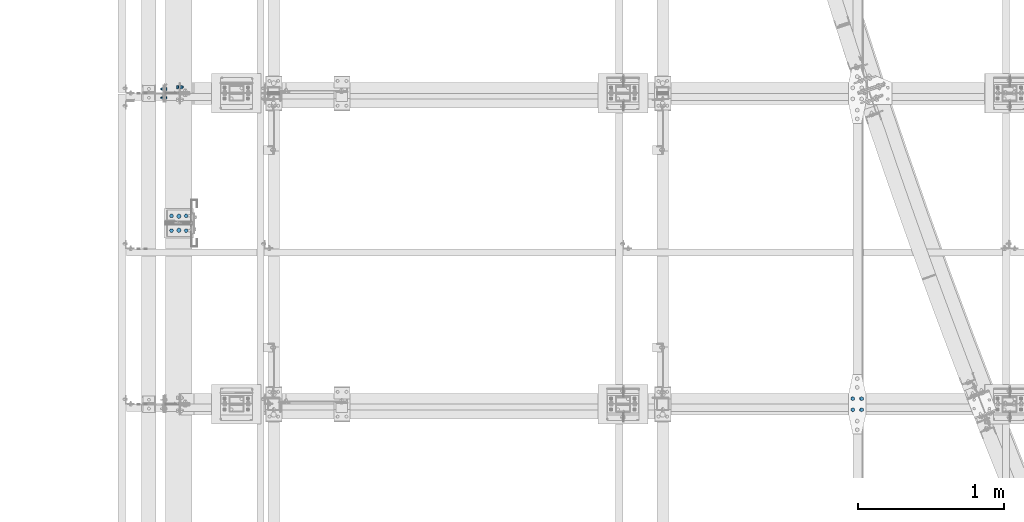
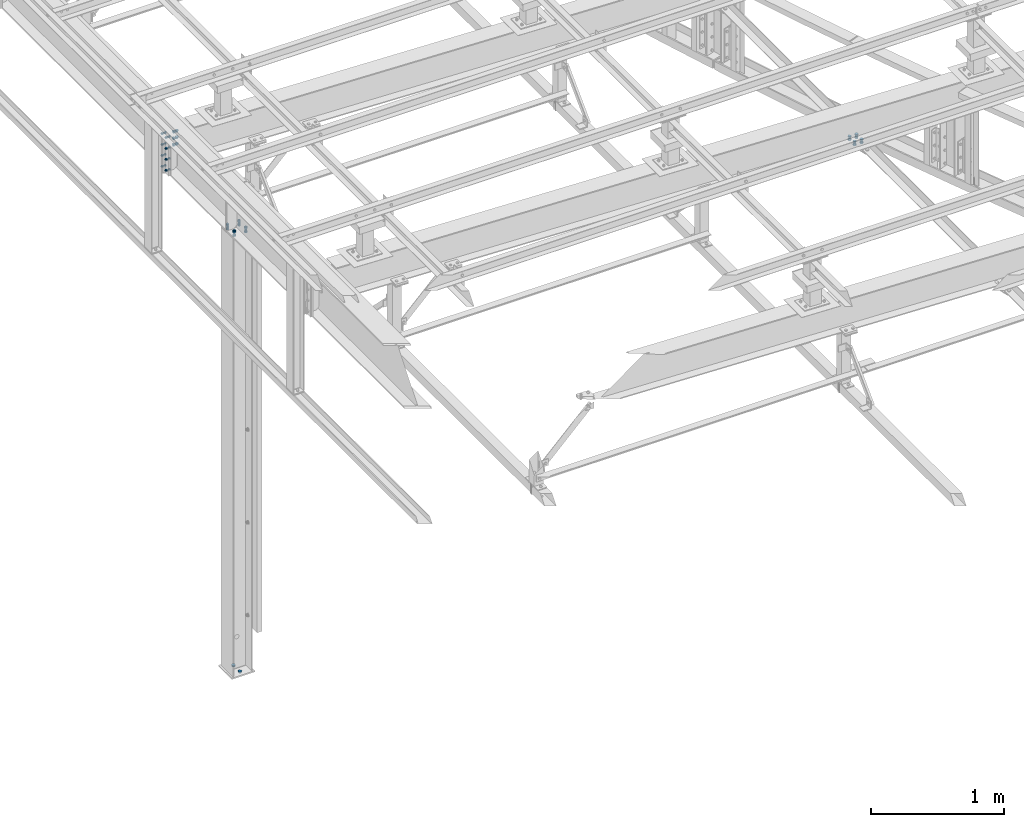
# One storey, part 44 of 3134: 6 mechanical fasteners, 4 elements without a shape of their own.
"""IFC2X3 building model written with IfcOpenShell, lengths in millimetres."""

from ifc_helpers import new_model, si_unit, frame, origin_with_axes, place, context, subcontext, project, spatial, faceted_brep, source, transform, mapped, material, type_object, element, aggregate, save


model = new_model("IFC2X3")

# Units and contexts
model_context = context("Model", 3, precision=1e-05, world=origin_with_axes())
body_context = subcontext(model_context, "Body", "Model", "MODEL_VIEW")
ifc_project = project(units=[si_unit("LENGTHUNIT", "METRE", prefix="MILLI"), si_unit("AREAUNIT", "SQUARE_METRE"), si_unit("VOLUMEUNIT", "CUBIC_METRE"), si_unit("MASSUNIT", "GRAM", prefix="KILO"), si_unit("TIMEUNIT", "SECOND"), si_unit("PLANEANGLEUNIT", "RADIAN"), si_unit("SOLIDANGLEUNIT", "STERADIAN"), si_unit("THERMODYNAMICTEMPERATUREUNIT", "DEGREE_CELSIUS"), si_unit("LUMINOUSINTENSITYUNIT", "LUMEN")], contexts=[model_context])

# Site, building, storey
site_placement = place(None, origin_with_axes())
site = spatial("IfcSite", under=ifc_project, at=site_placement, CompositionType="ELEMENT")
building_placement = place(site_placement, origin_with_axes())
building = spatial("IfcBuilding", under=site, at=building_placement, Name="Undefined", CompositionType="ELEMENT")
storey_placement = place(building_placement, origin_with_axes())
storey = spatial("IfcBuildingStorey", under=building, at=storey_placement, Name="Undefined", CompositionType="ELEMENT", Elevation=0.0)

# Assembly, mechanical fastener
assembly_1_placement = place(storey_placement, origin_with_axes())
assembly_1 = element("IfcElementAssembly", 1, at=assembly_1_placement, inside=storey, Name="HEA180", AssemblyPlace="NOTDEFINED", PredefinedType="RIGID_FRAME")
ifc_material = material(Name="8.8")
mechanical_fastener_type = type_object("IfcMechanicalFastenerType", Name="Bolt assembly")
shared_shape_1 = source(origin_with_axes(), body_context, "Body", "Brep", [
    faceted_brep([(13.0, 0.0, 0.0), (11.2583302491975, 0.0, 6.50000000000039), (6.49999999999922, 0.0, 11.2583302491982), (-1.34723677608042e-12, 0.0, 13.0), (-6.50000000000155, 0.0, 11.2583302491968), (-11.2583302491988, 0.0, 6.49999999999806), (-13.0, 0.0, -2.69447355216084e-12), (-11.2583302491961, 0.0, -6.50000000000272), (-6.4999999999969, 0.0, -11.2583302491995), (4.02727742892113e-12, 0.0, -13.0), (6.50000000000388, 0.0, -11.2583302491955), (11.2583302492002, 0.0, -6.49999999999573), (11.2583302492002, 12.1, -6.49999999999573), (6.50000000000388, 12.1, -11.2583302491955), (4.02727742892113e-12, 12.1, -13.0), (-6.4999999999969, 12.1, -11.2583302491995), (-11.2583302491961, 12.1, -6.50000000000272), (-13.0, 12.1, -2.69447355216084e-12), (-11.2583302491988, 12.1, 6.49999999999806), (-6.50000000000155, 12.1, 11.2583302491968), (-1.34723677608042e-12, 12.1, 13.0), (6.49999999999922, 12.1, 11.2583302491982), (11.2583302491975, 12.1, 6.50000000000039), (13.0, 12.1, 0.0)], [[[0, 1, 2, 3, 4, 5, 6, 7, 8, 9, 10, 11]], [[12, 13, 14, 15, 16, 17, 18, 19, 20, 21, 22, 23]], [[0, 23, 22, 1]], [[1, 22, 21, 2]], [[2, 21, 20, 3]], [[3, 20, 19, 4]], [[4, 19, 18, 5]], [[5, 18, 17, 6]], [[6, 17, 16, 7]], [[7, 16, 15, 8]], [[8, 15, 14, 9]], [[9, 14, 13, 10]], [[10, 13, 12, 11]], [[11, 12, 23, 0]]]),
])
mechanical_fastener_1_placement = place(assembly_1_placement, frame((0.0, 18560.0, -400.0), z_axis=(0.0, 1.0, 0.0), x_axis=(-1.0, 0.0, 0.0)))
mechanical_fastener_1 = element("IfcMechanicalFastener", 2, at=mechanical_fastener_1_placement, type_object=mechanical_fastener_type, material=ifc_material, Name="Bolt assembly", NominalDiameter=24.0, NominalLength=12.0, context=body_context, shape_type="MappedRepresentation", body=[
    mapped(shared_shape_1, transform((0.0, 0.0, -48.0))),
    mapped(shared_shape_1, transform((0.0, 0.0, 48.0))),
])

assembly_2_placement = place(storey_placement, origin_with_axes())
assembly_2 = element("IfcElementAssembly", 3, at=assembly_2_placement, inside=storey, Name="IPE400", AssemblyPlace="NOTDEFINED", PredefinedType="RIGID_FRAME")
shared_shape_2 = source(origin_with_axes(), body_context, "Body", "Brep", [
    faceted_brep([(10.9696551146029, -18.0, 0.0), (5.48482755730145, -18.0, 9.5), (-5.48482755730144, -18.0, 9.5), (-10.9696551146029, -18.0, 1.34339530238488e-15), (-5.48482755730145, -18.0, -9.5), (5.48482755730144, -18.0, -9.50000000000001), (5.48482755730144, -10.0, -9.50000000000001), (-5.48482755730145, -10.0, -9.5), (-10.9696551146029, -10.0, 1.34339530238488e-15), (-5.48482755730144, -10.0, 9.5), (5.48482755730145, -10.0, 9.5), (10.9696551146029, -10.0, 0.0), (6.0, -10.0, 0.0), (5.19615242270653, -10.0, 3.00000000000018), (2.99999999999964, -10.0, 5.19615242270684), (-6.21801588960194e-13, -10.0, 6.0), (-3.00000000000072, -10.0, 5.19615242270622), (-5.19615242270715, -10.0, 2.9999999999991), (-6.0, -10.0, -1.24360317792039e-12), (-5.19615242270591, -10.0, -3.00000000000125), (-2.99999999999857, -10.0, -5.19615242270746), (1.85874342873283e-12, -10.0, -6.0), (3.00000000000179, -10.0, -5.1961524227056), (5.19615242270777, -10.0, -2.99999999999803), (5.19615242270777, 24.9999999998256, -2.99999999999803), (3.00000000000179, 24.9999999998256, -5.1961524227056), (1.85874342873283e-12, 24.9999999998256, -6.0), (-2.99999999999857, 24.9999999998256, -5.19615242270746), (-5.19615242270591, 24.9999999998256, -3.00000000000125), (-6.0, 24.9999999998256, -1.24360317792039e-12), (-5.19615242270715, 24.9999999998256, 2.9999999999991), (-3.00000000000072, 24.9999999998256, 5.19615242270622), (-6.21801588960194e-13, 24.9999999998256, 6.0), (2.99999999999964, 24.9999999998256, 5.19615242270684), (5.19615242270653, 24.9999999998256, 3.00000000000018), (6.0, 24.9999999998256, 0.0), (10.9696551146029, 10.0, 0.0), (5.48482755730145, 10.0, 9.5), (-5.48482755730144, 10.0, 9.5), (-10.9696551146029, 10.0, 1.34339530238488e-15), (-5.48482755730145, 10.0, -9.5), (5.48482755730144, 10.0, -9.50000000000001), (5.48482755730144, 20.0, -9.50000000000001), (-5.48482755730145, 20.0, -9.5), (-10.9696551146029, 20.0, 1.34339530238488e-15), (-5.48482755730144, 20.0, 9.5), (5.48482755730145, 20.0, 9.5), (10.9696551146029, 20.0, 0.0)], [[[0, 1, 2, 3, 4, 5]], [[6, 7, 8, 9, 10, 11]], [[0, 11, 10, 1]], [[1, 10, 9, 2]], [[2, 9, 8, 3]], [[3, 8, 7, 4]], [[4, 7, 6, 5]], [[5, 6, 11, 0]], [[12, 13, 14, 15, 16, 17, 18, 19, 20, 21, 22, 23]], [[24, 25, 26, 27, 28, 29, 30, 31, 32, 33, 34, 35]], [[12, 35, 34, 13]], [[13, 34, 33, 14]], [[14, 33, 32, 15]], [[15, 32, 31, 16]], [[16, 31, 30, 17]], [[17, 30, 29, 18]], [[18, 29, 28, 19]], [[19, 28, 27, 20]], [[20, 27, 26, 21]], [[21, 26, 25, 22]], [[22, 25, 24, 23]], [[23, 24, 35, 12]], [[36, 37, 38, 39, 40, 41]], [[42, 43, 44, 45, 46, 47]], [[36, 47, 46, 37]], [[37, 46, 45, 38]], [[38, 45, 44, 39]], [[39, 44, 43, 40]], [[40, 43, 42, 41]], [[41, 42, 47, 36]]]),
    faceted_brep([(7.0, -0.1, 0.0), (6.06217782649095, -0.1, 3.50000000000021), (3.49999999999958, -0.1, 6.06217782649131), (-7.25435187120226e-13, -0.1, 7.0), (-3.50000000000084, -0.1, 6.06217782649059), (-6.06217782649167, -0.1, 3.49999999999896), (-7.0, -0.1, -1.45087037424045e-12), (-6.06217782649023, -0.1, -3.50000000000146), (-3.49999999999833, -0.1, -6.06217782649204), (2.1685340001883e-12, -0.1, -7.0), (3.50000000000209, -0.1, -6.06217782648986), (6.0621778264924, -0.1, -3.4999999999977), (6.0621778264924, 10.0, -3.4999999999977), (3.50000000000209, 10.0, -6.06217782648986), (2.1685340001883e-12, 10.0, -7.0), (-3.49999999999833, 10.0, -6.06217782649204), (-6.06217782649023, 10.0, -3.50000000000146), (-7.0, 10.0, -1.45087037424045e-12), (-6.06217782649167, 10.0, 3.49999999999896), (-3.50000000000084, 10.0, 6.06217782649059), (-7.25435187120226e-13, 10.0, 7.0), (3.49999999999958, 10.0, 6.06217782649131), (6.06217782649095, 10.0, 3.50000000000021), (7.0, 10.0, 0.0), (7.0, -9.89999913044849, 0.0), (6.06217782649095, -9.89999913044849, 3.50000000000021), (3.49999999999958, -9.89999913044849, 6.06217782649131), (-7.25435187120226e-13, -9.89999913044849, 7.0), (-3.50000000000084, -9.89999913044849, 6.06217782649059), (-6.06217782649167, -9.89999913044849, 3.49999999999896), (-7.0, -9.89999913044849, -1.45087037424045e-12), (-6.06217782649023, -9.89999913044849, -3.50000000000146), (-3.49999999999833, -9.89999913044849, -6.06217782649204), (2.1685340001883e-12, -9.89999913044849, -7.0), (3.50000000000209, -9.89999913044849, -6.06217782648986), (6.0621778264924, -9.89999913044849, -3.4999999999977), (6.0621778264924, 0.0999999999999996, -3.4999999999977), (3.50000000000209, 0.0999999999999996, -6.06217782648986), (2.1685340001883e-12, 0.0999999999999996, -7.0), (-3.49999999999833, 0.0999999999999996, -6.06217782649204), (-6.06217782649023, 0.0999999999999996, -3.50000000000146), (-7.0, 0.0999999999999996, -1.45087037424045e-12), (-6.06217782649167, 0.0999999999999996, 3.49999999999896), (-3.50000000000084, 0.0999999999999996, 6.06217782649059), (-7.25435187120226e-13, 0.0999999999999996, 7.0), (3.49999999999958, 0.0999999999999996, 6.06217782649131), (6.06217782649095, 0.0999999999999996, 3.50000000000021), (7.0, 0.0999999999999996, 0.0)], [[[0, 1, 2, 3, 4, 5, 6, 7, 8, 9, 10, 11]], [[12, 13, 14, 15, 16, 17, 18, 19, 20, 21, 22, 23]], [[0, 23, 22, 1]], [[1, 22, 21, 2]], [[2, 21, 20, 3]], [[3, 20, 19, 4]], [[4, 19, 18, 5]], [[5, 18, 17, 6]], [[6, 17, 16, 7]], [[7, 16, 15, 8]], [[8, 15, 14, 9]], [[9, 14, 13, 10]], [[10, 13, 12, 11]], [[11, 12, 23, 0]], [[24, 25, 26, 27, 28, 29, 30, 31, 32, 33, 34, 35]], [[36, 37, 38, 39, 40, 41, 42, 43, 44, 45, 46, 47]], [[24, 47, 46, 25]], [[25, 46, 45, 26]], [[26, 45, 44, 27]], [[27, 44, 43, 28]], [[28, 43, 42, 29]], [[29, 42, 41, 30]], [[30, 41, 40, 31]], [[31, 40, 39, 32]], [[32, 39, 38, 33]], [[33, 38, 37, 34]], [[34, 37, 36, 35]], [[35, 36, 47, 24]]]),
])
mechanical_fastener_2_placement = place(assembly_2_placement, frame((-100.0, 19450.0, 3990.0), z_axis=(0.0, 1.0, 0.0), x_axis=(0.0, 0.0, -1.0)))
mechanical_fastener_2 = element("IfcMechanicalFastener", 4, at=mechanical_fastener_2_placement, type_object=mechanical_fastener_type, material=ifc_material, Name="Bolt assembly", NominalDiameter=12.0, NominalLength=35.0, context=body_context, shape_type="MappedRepresentation", body=[
    mapped(shared_shape_2, transform((0.0, 4.54747350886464e-13, -30.0000000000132))),
    mapped(shared_shape_2, transform((100.0, 0.0, -30.0))),
    mapped(shared_shape_2, transform((200.0, 0.0, -30.0))),
    mapped(shared_shape_2, transform((300.0, 0.0, -30.0))),
    mapped(shared_shape_2, transform((0.0, 4.54747350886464e-13, 30.0000000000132))),
    mapped(shared_shape_2, transform((100.0, 0.0, 30.0))),
    mapped(shared_shape_2, transform((200.0, 0.0, 30.0))),
    mapped(shared_shape_2, transform((300.0, 0.0, 30.0))),
])
aggregate(assembly_2, [mechanical_fastener_2])

# Mechanical fastener
shared_shape_3 = source(origin_with_axes(), body_context, "Body", "Brep", [
    faceted_brep([(13.856406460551, -10.0, 0.0), (6.92820323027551, -10.0, 12.0), (-6.92820323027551, -10.0, 12.0), (-13.856406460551, -10.0, 1.69692038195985e-15), (-6.92820323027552, -10.0, -12.0), (6.9282032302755, -10.0, -12.0), (6.9282032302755, 0.0, -12.0), (-6.92820323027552, 0.0, -12.0), (-13.856406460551, 0.0, 1.69692038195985e-15), (-6.92820323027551, 0.0, 12.0), (6.92820323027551, 0.0, 12.0), (13.856406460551, 0.0, 0.0), (8.0, 0.0, 0.0), (6.92820323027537, 0.0, 4.00000000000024), (3.99999999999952, 0.0, 6.92820323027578), (-8.29068785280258e-13, 0.0, 8.0), (-4.00000000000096, 0.0, 6.92820323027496), (-6.9282032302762, 0.0, 3.99999999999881), (-8.0, 0.0, -1.65813757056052e-12), (-6.92820323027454, 0.0, -4.00000000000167), (-3.99999999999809, 0.0, -6.92820323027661), (2.47832457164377e-12, 0.0, -8.0), (4.00000000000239, 0.0, -6.92820323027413), (6.92820323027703, 0.0, -3.99999999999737), (6.92820323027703, 45.0, -3.99999999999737), (4.00000000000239, 45.0, -6.92820323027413), (2.47832457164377e-12, 45.0, -8.0), (-3.99999999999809, 45.0, -6.92820323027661), (-6.92820323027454, 45.0, -4.00000000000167), (-8.0, 45.0, -1.65813757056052e-12), (-6.9282032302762, 45.0, 3.99999999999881), (-4.00000000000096, 45.0, 6.92820323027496), (-8.29068785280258e-13, 45.0, 8.0), (3.99999999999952, 45.0, 6.92820323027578), (6.92820323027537, 45.0, 4.00000000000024), (8.0, 45.0, 0.0), (13.856406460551, 25.5, 0.0), (6.92820323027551, 25.5, 12.0), (-6.92820323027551, 25.5, 12.0), (-13.856406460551, 25.5, 1.69692038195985e-15), (-6.92820323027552, 25.5, -12.0), (6.9282032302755, 25.5, -12.0), (6.9282032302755, 38.5, -12.0), (-6.92820323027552, 38.5, -12.0), (-13.856406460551, 38.5, 1.69692038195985e-15), (-6.92820323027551, 38.5, 12.0), (6.92820323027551, 38.5, 12.0), (13.856406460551, 38.5, 0.0)], [[[0, 1, 2, 3, 4, 5]], [[6, 7, 8, 9, 10, 11]], [[0, 11, 10, 1]], [[1, 10, 9, 2]], [[2, 9, 8, 3]], [[3, 8, 7, 4]], [[4, 7, 6, 5]], [[5, 6, 11, 0]], [[12, 13, 14, 15, 16, 17, 18, 19, 20, 21, 22, 23]], [[24, 25, 26, 27, 28, 29, 30, 31, 32, 33, 34, 35]], [[12, 35, 34, 13]], [[13, 34, 33, 14]], [[14, 33, 32, 15]], [[15, 32, 31, 16]], [[16, 31, 30, 17]], [[17, 30, 29, 18]], [[18, 29, 28, 19]], [[19, 28, 27, 20]], [[20, 27, 26, 21]], [[21, 26, 25, 22]], [[22, 25, 24, 23]], [[23, 24, 35, 12]], [[36, 37, 38, 39, 40, 41]], [[42, 43, 44, 45, 46, 47]], [[36, 47, 46, 37]], [[37, 46, 45, 38]], [[38, 45, 44, 39]], [[39, 44, 43, 40]], [[40, 43, 42, 41]], [[41, 42, 47, 36]]]),
    faceted_brep([(9.0, 11.9, 0.0), (7.79422863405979, 11.9, 4.50000000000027), (4.49999999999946, 11.9, 7.79422863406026), (-9.3270238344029e-13, 11.9, 9.0), (-4.50000000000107, 11.9, 7.79422863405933), (-7.79422863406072, 11.9, 4.49999999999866), (-9.0, 11.9, -1.86540476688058e-12), (-7.79422863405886, 11.9, -4.50000000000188), (-4.49999999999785, 11.9, -7.79422863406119), (2.78811514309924e-12, 11.9, -9.0), (4.50000000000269, 11.9, -7.7942286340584), (7.79422863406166, 11.9, -4.49999999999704), (7.79422863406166, 25.5, -4.49999999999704), (4.50000000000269, 25.5, -7.7942286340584), (2.78811514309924e-12, 25.5, -9.0), (-4.49999999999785, 25.5, -7.79422863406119), (-7.79422863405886, 25.5, -4.50000000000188), (-9.0, 25.5, -1.86540476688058e-12), (-7.79422863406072, 25.5, 4.49999999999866), (-4.50000000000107, 25.5, 7.79422863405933), (-9.3270238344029e-13, 25.5, 9.0), (4.49999999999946, 25.5, 7.79422863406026), (7.79422863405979, 25.5, 4.50000000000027), (9.0, 25.5, 0.0), (9.0, 0.100000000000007, 0.0), (7.79422863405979, 0.100000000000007, 4.50000000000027), (4.49999999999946, 0.100000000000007, 7.79422863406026), (-9.3270238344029e-13, 0.100000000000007, 9.0), (-4.50000000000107, 0.100000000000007, 7.79422863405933), (-7.79422863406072, 0.100000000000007, 4.49999999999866), (-9.0, 0.100000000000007, -1.86540476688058e-12), (-7.79422863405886, 0.100000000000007, -4.50000000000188), (-4.49999999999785, 0.100000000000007, -7.79422863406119), (2.78811514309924e-12, 0.100000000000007, -9.0), (4.50000000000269, 0.100000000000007, -7.7942286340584), (7.79422863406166, 0.100000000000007, -4.49999999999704), (7.79422863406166, 12.1, -4.49999999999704), (4.50000000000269, 12.1, -7.7942286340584), (2.78811514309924e-12, 12.1, -9.0), (-4.49999999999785, 12.1, -7.79422863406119), (-7.79422863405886, 12.1, -4.50000000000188), (-9.0, 12.1, -1.86540476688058e-12), (-7.79422863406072, 12.1, 4.49999999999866), (-4.50000000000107, 12.1, 7.79422863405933), (-9.3270238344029e-13, 12.1, 9.0), (4.49999999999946, 12.1, 7.79422863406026), (7.79422863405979, 12.1, 4.50000000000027), (9.0, 12.1, 0.0)], [[[0, 1, 2, 3, 4, 5, 6, 7, 8, 9, 10, 11]], [[12, 13, 14, 15, 16, 17, 18, 19, 20, 21, 22, 23]], [[0, 23, 22, 1]], [[1, 22, 21, 2]], [[2, 21, 20, 3]], [[3, 20, 19, 4]], [[4, 19, 18, 5]], [[5, 18, 17, 6]], [[6, 17, 16, 7]], [[7, 16, 15, 8]], [[8, 15, 14, 9]], [[9, 14, 13, 10]], [[10, 13, 12, 11]], [[11, 12, 23, 0]], [[24, 25, 26, 27, 28, 29, 30, 31, 32, 33, 34, 35]], [[36, 37, 38, 39, 40, 41, 42, 43, 44, 45, 46, 47]], [[24, 47, 46, 25]], [[25, 46, 45, 26]], [[26, 45, 44, 27]], [[27, 44, 43, 28]], [[28, 43, 42, 29]], [[29, 42, 41, 30]], [[30, 41, 40, 31]], [[31, 40, 39, 32]], [[32, 39, 38, 33]], [[33, 38, 37, 34]], [[34, 37, 36, 35]], [[35, 36, 47, 24]]]),
])
mechanical_fastener_3_placement = place(assembly_1_placement, frame((50.0, 18510.0, 3628.0), z_axis=(0.0, 1.0, 0.0), x_axis=(-1.0, 0.0, 0.0)))
mechanical_fastener_3 = element("IfcMechanicalFastener", 5, at=mechanical_fastener_3_placement, type_object=mechanical_fastener_type, material=ifc_material, Name="Bolt assembly", NominalDiameter=16.0, NominalLength=45.0, context=body_context, shape_type="MappedRepresentation", body=[
    mapped(shared_shape_3, transform((0.0, 0.0, 0.0))),
    mapped(shared_shape_3, transform((100.0, 0.0, 0.0))),
])

mechanical_fastener_4_placement = place(assembly_1_placement, frame((50.0, 18610.0, 3628.0), z_axis=(0.0, 1.0, 0.0), x_axis=(-1.0, 0.0, 0.0)))
mechanical_fastener_4 = element("IfcMechanicalFastener", 6, at=mechanical_fastener_4_placement, type_object=mechanical_fastener_type, material=ifc_material, Name="Bolt assembly", NominalDiameter=16.0, NominalLength=45.0, context=body_context, shape_type="MappedRepresentation", body=[
    mapped(shared_shape_3, transform((0.0, 0.0, 0.0))),
    mapped(shared_shape_3, transform((100.0, 0.0, 0.0))),
])

aggregate(assembly_1, [mechanical_fastener_3, mechanical_fastener_4, mechanical_fastener_1])

# Assembly, mechanical fastener
assembly_3_placement = place(storey_placement, origin_with_axes())
assembly_3 = element("IfcElementAssembly", 7, at=assembly_3_placement, inside=storey, AssemblyPlace="NOTDEFINED", PredefinedType="RIGID_FRAME")
shared_shape_4 = source(origin_with_axes(), body_context, "Body", "Brep", [
    faceted_brep([(13.856406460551, -18.5936482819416, 0.0), (6.92820323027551, -18.5936482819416, 12.0), (-6.92820323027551, -18.5936482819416, 12.0), (-13.856406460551, -18.5936482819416, 1.69692038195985e-15), (-6.92820323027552, -18.5936482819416, -12.0), (6.9282032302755, -18.5936482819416, -12.0), (6.9282032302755, -8.59364828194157, -12.0), (-6.92820323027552, -8.59364828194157, -12.0), (-13.856406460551, -8.59364828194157, 1.69692038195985e-15), (-6.92820323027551, -8.59364828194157, 12.0), (6.92820323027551, -8.59364828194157, 12.0), (13.856406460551, -8.59364828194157, 0.0), (8.0, -8.59364828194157, 0.0), (6.92820323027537, -8.59364828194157, 4.00000000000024), (3.99999999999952, -8.59364828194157, 6.92820323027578), (-8.29068785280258e-13, -8.59364828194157, 8.0), (-4.00000000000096, -8.59364828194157, 6.92820323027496), (-6.9282032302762, -8.59364828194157, 3.99999999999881), (-8.0, -8.59364828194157, -1.65813757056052e-12), (-6.92820323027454, -8.59364828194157, -4.00000000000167), (-3.99999999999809, -8.59364828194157, -6.92820323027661), (2.47832457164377e-12, -8.59364828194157, -8.0), (4.00000000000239, -8.59364828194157, -6.92820323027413), (6.92820323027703, -8.59364828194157, -3.99999999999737), (6.92820323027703, 26.4063517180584, -3.99999999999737), (4.00000000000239, 26.4063517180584, -6.92820323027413), (2.47832457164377e-12, 26.4063517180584, -8.0), (-3.99999999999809, 26.4063517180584, -6.92820323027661), (-6.92820323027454, 26.4063517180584, -4.00000000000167), (-8.0, 26.4063517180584, -1.65813757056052e-12), (-6.9282032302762, 26.4063517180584, 3.99999999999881), (-4.00000000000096, 26.4063517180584, 6.92820323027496), (-8.29068785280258e-13, 26.4063517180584, 8.0), (3.99999999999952, 26.4063517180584, 6.92820323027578), (6.92820323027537, 26.4063517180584, 4.00000000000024), (8.0, 26.4063517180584, 0.0), (13.856406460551, 7.0, 0.0), (6.92820323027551, 7.0, 12.0), (-6.92820323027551, 7.0, 12.0), (-13.856406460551, 7.0, 1.69692038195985e-15), (-6.92820323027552, 7.0, -12.0), (6.9282032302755, 7.0, -12.0), (6.9282032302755, 20.0, -12.0), (-6.92820323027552, 20.0, -12.0), (-13.856406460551, 20.0, 1.69692038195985e-15), (-6.92820323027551, 20.0, 12.0), (6.92820323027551, 20.0, 12.0), (13.856406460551, 20.0, 0.0)], [[[0, 1, 2, 3, 4, 5]], [[6, 7, 8, 9, 10, 11]], [[0, 11, 10, 1]], [[1, 10, 9, 2]], [[2, 9, 8, 3]], [[3, 8, 7, 4]], [[4, 7, 6, 5]], [[5, 6, 11, 0]], [[12, 13, 14, 15, 16, 17, 18, 19, 20, 21, 22, 23]], [[24, 25, 26, 27, 28, 29, 30, 31, 32, 33, 34, 35]], [[12, 35, 34, 13]], [[13, 34, 33, 14]], [[14, 33, 32, 15]], [[15, 32, 31, 16]], [[16, 31, 30, 17]], [[17, 30, 29, 18]], [[18, 29, 28, 19]], [[19, 28, 27, 20]], [[20, 27, 26, 21]], [[21, 26, 25, 22]], [[22, 25, 24, 23]], [[23, 24, 35, 12]], [[36, 37, 38, 39, 40, 41]], [[42, 43, 44, 45, 46, 47]], [[36, 47, 46, 37]], [[37, 46, 45, 38]], [[38, 45, 44, 39]], [[39, 44, 43, 40]], [[40, 43, 42, 41]], [[41, 42, 47, 36]]]),
    faceted_brep([(9.0, -8.49364828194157, 0.0), (7.79422863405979, -8.49364828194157, 4.50000000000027), (4.49999999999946, -8.49364828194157, 7.79422863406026), (-9.3270238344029e-13, -8.49364828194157, 9.0), (-4.50000000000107, -8.49364828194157, 7.79422863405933), (-7.79422863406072, -8.49364828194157, 4.49999999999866), (-9.0, -8.49364828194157, -1.86540476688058e-12), (-7.79422863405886, -8.49364828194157, -4.50000000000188), (-4.49999999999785, -8.49364828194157, -7.79422863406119), (2.78811514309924e-12, -8.49364828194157, -9.0), (4.50000000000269, -8.49364828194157, -7.7942286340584), (7.79422863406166, -8.49364828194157, -4.49999999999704), (7.79422863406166, 0.10635209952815, -4.49999999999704), (4.50000000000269, 0.10635209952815, -7.7942286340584), (2.78811514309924e-12, 0.10635209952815, -9.0), (-4.49999999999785, 0.10635209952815, -7.79422863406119), (-7.79422863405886, 0.10635209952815, -4.50000000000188), (-9.0, 0.10635209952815, -1.86540476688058e-12), (-7.79422863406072, 0.10635209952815, 4.49999999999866), (-4.50000000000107, 0.10635209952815, 7.79422863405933), (-9.3270238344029e-13, 0.10635209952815, 9.0), (4.49999999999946, 0.10635209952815, 7.79422863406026), (7.79422863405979, 0.10635209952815, 4.50000000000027), (9.0, 0.10635209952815, 0.0), (9.0, -0.1, 0.0), (7.79422863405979, -0.1, 4.50000000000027), (4.49999999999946, -0.1, 7.79422863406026), (-9.3270238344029e-13, -0.1, 9.0), (-4.50000000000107, -0.1, 7.79422863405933), (-7.79422863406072, -0.1, 4.49999999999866), (-9.0, -0.1, -1.86540476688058e-12), (-7.79422863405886, -0.1, -4.50000000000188), (-4.49999999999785, -0.1, -7.79422863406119), (2.78811514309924e-12, -0.1, -9.0), (4.50000000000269, -0.1, -7.7942286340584), (7.79422863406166, -0.1, -4.49999999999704), (7.79422863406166, 7.0, -4.49999999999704), (4.50000000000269, 7.0, -7.7942286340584), (2.78811514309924e-12, 7.0, -9.0), (-4.49999999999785, 7.0, -7.79422863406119), (-7.79422863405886, 7.0, -4.50000000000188), (-9.0, 7.0, -1.86540476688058e-12), (-7.79422863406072, 7.0, 4.49999999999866), (-4.50000000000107, 7.0, 7.79422863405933), (-9.3270238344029e-13, 7.0, 9.0), (4.49999999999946, 7.0, 7.79422863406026), (7.79422863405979, 7.0, 4.50000000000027), (9.0, 7.0, 0.0)], [[[0, 1, 2, 3, 4, 5, 6, 7, 8, 9, 10, 11]], [[12, 13, 14, 15, 16, 17, 18, 19, 20, 21, 22, 23]], [[0, 23, 22, 1]], [[1, 22, 21, 2]], [[2, 21, 20, 3]], [[3, 20, 19, 4]], [[4, 19, 18, 5]], [[5, 18, 17, 6]], [[6, 17, 16, 7]], [[7, 16, 15, 8]], [[8, 15, 14, 9]], [[9, 14, 13, 10]], [[10, 13, 12, 11]], [[11, 12, 23, 0]], [[24, 25, 26, 27, 28, 29, 30, 31, 32, 33, 34, 35]], [[36, 37, 38, 39, 40, 41, 42, 43, 44, 45, 46, 47]], [[24, 47, 46, 25]], [[25, 46, 45, 26]], [[26, 45, 44, 27]], [[27, 44, 43, 28]], [[28, 43, 42, 29]], [[29, 42, 41, 30]], [[30, 41, 40, 31]], [[31, 40, 39, 32]], [[32, 39, 38, 33]], [[33, 38, 37, 34]], [[34, 37, 36, 35]], [[35, 36, 47, 24]]]),
])
mechanical_fastener_5_placement = place(assembly_3_placement, frame((4.29364809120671, 19493.04, 3841.86727512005), z_axis=(0.0, 1.0, 0.0), x_axis=(0.0, 0.0, 1.0)))
mechanical_fastener_5 = element("IfcMechanicalFastener", 8, at=mechanical_fastener_5_placement, type_object=mechanical_fastener_type, material=ifc_material, Name="Bolt assembly", NominalDiameter=16.0, NominalLength=35.0, context=body_context, shape_type="MappedRepresentation", body=[
    mapped(shared_shape_4, transform((0.0, 0.0, 0.0))),
    mapped(shared_shape_4, transform((59.9999999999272, 0.0, 5.40239852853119e-10))),
    mapped(shared_shape_4, transform((120.0, 0.0, 0.0))),
])
aggregate(assembly_3, [mechanical_fastener_5])

assembly_4_placement = place(storey_placement, origin_with_axes())
assembly_4 = element("IfcElementAssembly", 9, at=assembly_4_placement, inside=storey, Name="PL8", AssemblyPlace="NOTDEFINED", PredefinedType="RIGID_FRAME")
shared_shape_5 = source(origin_with_axes(), body_context, "Body", "Brep", [
    faceted_brep([(13.856406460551, -23.2000817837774, 0.0), (6.92820323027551, -23.2000817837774, 12.0), (-6.92820323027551, -23.2000817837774, 12.0), (-13.856406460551, -23.2000817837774, 1.69692038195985e-15), (-6.92820323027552, -23.2000817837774, -12.0), (6.9282032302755, -23.2000817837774, -12.0), (6.9282032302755, -13.2000817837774, -12.0), (-6.92820323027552, -13.2000817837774, -12.0), (-13.856406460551, -13.2000817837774, 1.69692038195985e-15), (-6.92820323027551, -13.2000817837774, 12.0), (6.92820323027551, -13.2000817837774, 12.0), (13.856406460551, -13.2000817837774, 0.0), (8.0, -13.2000817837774, 0.0), (6.92820323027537, -13.2000817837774, 4.00000000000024), (3.99999999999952, -13.2000817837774, 6.92820323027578), (-8.29068785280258e-13, -13.2000817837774, 8.0), (-4.00000000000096, -13.2000817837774, 6.92820323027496), (-6.9282032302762, -13.2000817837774, 3.99999999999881), (-8.0, -13.2000817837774, -1.65813757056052e-12), (-6.92820323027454, -13.2000817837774, -4.00000000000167), (-3.99999999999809, -13.2000817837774, -6.92820323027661), (2.47832457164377e-12, -13.2000817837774, -8.0), (4.00000000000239, -13.2000817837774, -6.92820323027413), (6.92820323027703, -13.2000817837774, -3.99999999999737), (6.92820323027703, 21.7999182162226, -3.99999999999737), (4.00000000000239, 21.7999182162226, -6.92820323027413), (2.47832457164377e-12, 21.7999182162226, -8.0), (-3.99999999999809, 21.7999182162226, -6.92820323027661), (-6.92820323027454, 21.7999182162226, -4.00000000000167), (-8.0, 21.7999182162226, -1.65813757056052e-12), (-6.9282032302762, 21.7999182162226, 3.99999999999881), (-4.00000000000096, 21.7999182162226, 6.92820323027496), (-8.29068785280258e-13, 21.7999182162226, 8.0), (3.99999999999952, 21.7999182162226, 6.92820323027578), (6.92820323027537, 21.7999182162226, 4.00000000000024), (8.0, 21.7999182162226, 0.0), (13.856406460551, 3.99999999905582, 0.0), (6.92820323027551, 3.99999999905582, 12.0), (-6.92820323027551, 3.99999999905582, 12.0), (-13.856406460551, 3.99999999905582, 1.69692038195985e-15), (-6.92820323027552, 3.99999999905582, -12.0), (6.9282032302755, 3.99999999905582, -12.0), (6.9282032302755, 16.9999999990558, -12.0), (-6.92820323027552, 16.9999999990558, -12.0), (-13.856406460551, 16.9999999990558, 1.69692038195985e-15), (-6.92820323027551, 16.9999999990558, 12.0), (6.92820323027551, 16.9999999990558, 12.0), (13.856406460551, 16.9999999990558, 0.0)], [[[0, 1, 2, 3, 4, 5]], [[6, 7, 8, 9, 10, 11]], [[0, 11, 10, 1]], [[1, 10, 9, 2]], [[2, 9, 8, 3]], [[3, 8, 7, 4]], [[4, 7, 6, 5]], [[5, 6, 11, 0]], [[12, 13, 14, 15, 16, 17, 18, 19, 20, 21, 22, 23]], [[24, 25, 26, 27, 28, 29, 30, 31, 32, 33, 34, 35]], [[12, 35, 34, 13]], [[13, 34, 33, 14]], [[14, 33, 32, 15]], [[15, 32, 31, 16]], [[16, 31, 30, 17]], [[17, 30, 29, 18]], [[18, 29, 28, 19]], [[19, 28, 27, 20]], [[20, 27, 26, 21]], [[21, 26, 25, 22]], [[22, 25, 24, 23]], [[23, 24, 35, 12]], [[36, 37, 38, 39, 40, 41]], [[42, 43, 44, 45, 46, 47]], [[36, 47, 46, 37]], [[37, 46, 45, 38]], [[38, 45, 44, 39]], [[39, 44, 43, 40]], [[40, 43, 42, 41]], [[41, 42, 47, 36]]]),
    faceted_brep([(9.0, -13.1000817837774, 0.0), (7.79422863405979, -13.1000817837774, 4.50000000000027), (4.49999999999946, -13.1000817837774, 7.79422863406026), (-9.3270238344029e-13, -13.1000817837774, 9.0), (-4.50000000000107, -13.1000817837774, 7.79422863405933), (-7.79422863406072, -13.1000817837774, 4.49999999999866), (-9.0, -13.1000817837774, -1.86540476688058e-12), (-7.79422863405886, -13.1000817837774, -4.50000000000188), (-4.49999999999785, -13.1000817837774, -7.79422863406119), (2.78811514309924e-12, -13.1000817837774, -9.0), (4.50000000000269, -13.1000817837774, -7.7942286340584), (7.79422863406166, -13.1000817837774, -4.49999999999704), (7.79422863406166, -3.90008197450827, -4.49999999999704), (4.50000000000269, -3.90008197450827, -7.7942286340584), (2.78811514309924e-12, -3.90008197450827, -9.0), (-4.49999999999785, -3.90008197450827, -7.79422863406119), (-7.79422863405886, -3.90008197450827, -4.50000000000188), (-9.0, -3.90008197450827, -1.86540476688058e-12), (-7.79422863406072, -3.90008197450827, 4.49999999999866), (-4.50000000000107, -3.90008197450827, 7.79422863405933), (-9.3270238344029e-13, -3.90008197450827, 9.0), (4.49999999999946, -3.90008197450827, 7.79422863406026), (7.79422863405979, -3.90008197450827, 4.50000000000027), (9.0, -3.90008197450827, 0.0), (9.0, -4.10000000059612, 0.0), (7.79422863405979, -4.10000000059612, 4.50000000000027), (4.49999999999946, -4.10000000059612, 7.79422863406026), (-9.3270238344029e-13, -4.10000000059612, 9.0), (-4.50000000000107, -4.10000000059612, 7.79422863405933), (-7.79422863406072, -4.10000000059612, 4.49999999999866), (-9.0, -4.10000000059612, -1.86540476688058e-12), (-7.79422863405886, -4.10000000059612, -4.50000000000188), (-4.49999999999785, -4.10000000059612, -7.79422863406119), (2.78811514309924e-12, -4.10000000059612, -9.0), (4.50000000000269, -4.10000000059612, -7.7942286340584), (7.79422863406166, -4.10000000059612, -4.49999999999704), (7.79422863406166, 4.00000375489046, -4.49999999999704), (4.50000000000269, 4.00000375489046, -7.7942286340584), (2.78811514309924e-12, 4.00000375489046, -9.0), (-4.49999999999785, 4.00000375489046, -7.79422863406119), (-7.79422863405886, 4.00000375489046, -4.50000000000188), (-9.0, 4.00000375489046, -1.86540476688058e-12), (-7.79422863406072, 4.00000375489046, 4.49999999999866), (-4.50000000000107, 4.00000375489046, 7.79422863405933), (-9.3270238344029e-13, 4.00000375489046, 9.0), (4.49999999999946, 4.00000375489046, 7.79422863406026), (7.79422863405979, 4.00000375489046, 4.50000000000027), (9.0, 4.00000375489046, 0.0)], [[[0, 1, 2, 3, 4, 5, 6, 7, 8, 9, 10, 11]], [[12, 13, 14, 15, 16, 17, 18, 19, 20, 21, 22, 23]], [[0, 23, 22, 1]], [[1, 22, 21, 2]], [[2, 21, 20, 3]], [[3, 20, 19, 4]], [[4, 19, 18, 5]], [[5, 18, 17, 6]], [[6, 17, 16, 7]], [[7, 16, 15, 8]], [[8, 15, 14, 9]], [[9, 14, 13, 10]], [[10, 13, 12, 11]], [[11, 12, 23, 0]], [[24, 25, 26, 27, 28, 29, 30, 31, 32, 33, 34, 35]], [[36, 37, 38, 39, 40, 41, 42, 43, 44, 45, 46, 47]], [[24, 47, 46, 25]], [[25, 46, 45, 26]], [[26, 45, 44, 27]], [[27, 44, 43, 28]], [[28, 43, 42, 29]], [[29, 42, 41, 30]], [[30, 41, 40, 31]], [[31, 40, 39, 32]], [[32, 39, 38, 33]], [[33, 38, 37, 34]], [[34, 37, 36, 35]], [[35, 36, 47, 24]]]),
])
mechanical_fastener_6_placement = place(assembly_4_placement, frame((4647.50483519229, 17282.0, 3576.15051900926), z_axis=(-0.999388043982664, 0.0, 0.0349791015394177), x_axis=(0.0, 1.0, 0.0)))
mechanical_fastener_6 = element("IfcMechanicalFastener", 10, at=mechanical_fastener_6_placement, type_object=mechanical_fastener_type, material=ifc_material, Name="Bolt assembly", NominalDiameter=16.0, NominalLength=35.0, context=body_context, shape_type="MappedRepresentation", body=[
    mapped(shared_shape_5, transform((0.0, 4.54747350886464e-13, -30.0000000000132))),
    mapped(shared_shape_5, transform((76.0, -2.00088834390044e-10, -29.9999999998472))),
    mapped(shared_shape_5, transform((0.0, 4.54747350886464e-13, 30.0000000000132))),
    mapped(shared_shape_5, transform((76.0, 1.98269844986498e-10, 29.9999999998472))),
])
aggregate(assembly_4, [mechanical_fastener_6])

save(model, "model.ifc")
